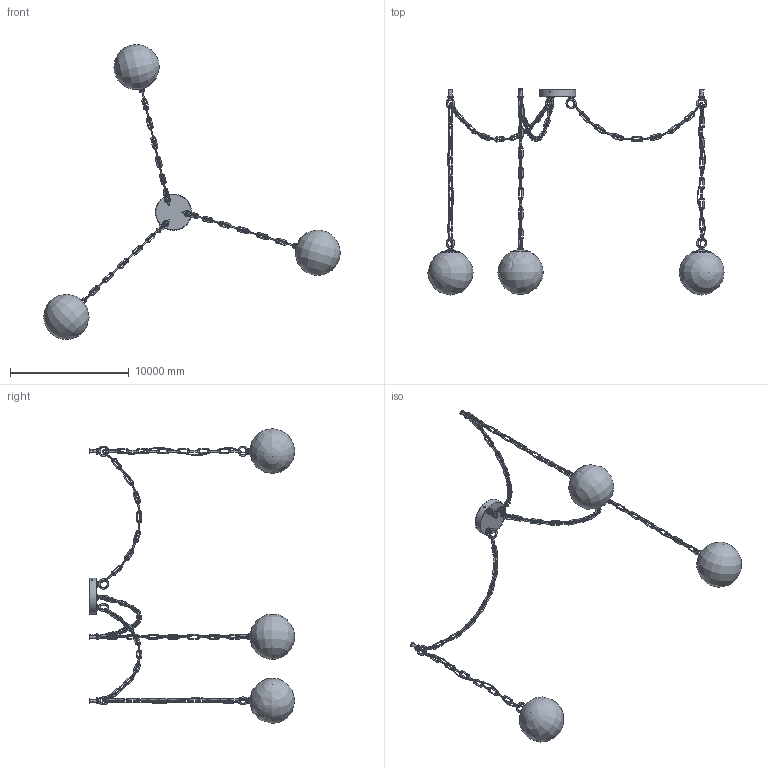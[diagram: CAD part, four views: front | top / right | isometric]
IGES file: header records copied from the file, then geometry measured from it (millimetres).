
Global section: file name: Alabaster Swag Pendant Lamp-3heads; native system: AutoCAD 2022 - 简体中文 (Simplified Chinese),62HAuto; preprocessor: desk Translation Framework DWG producer (atf_dwg_producer); organization: unknown; date: 20251202.152136; units: inch
Bounding box: 24979.89 x 17354.3 x 24843.85 mm (x, y, z)
Volume: 90259275768.6 mm3; surface area: 300331815 mm2
Topology: 127 solids, 127 shells, 841 faces, 1921 edges, 1164 vertices
Faces by surface type: bspline 841
